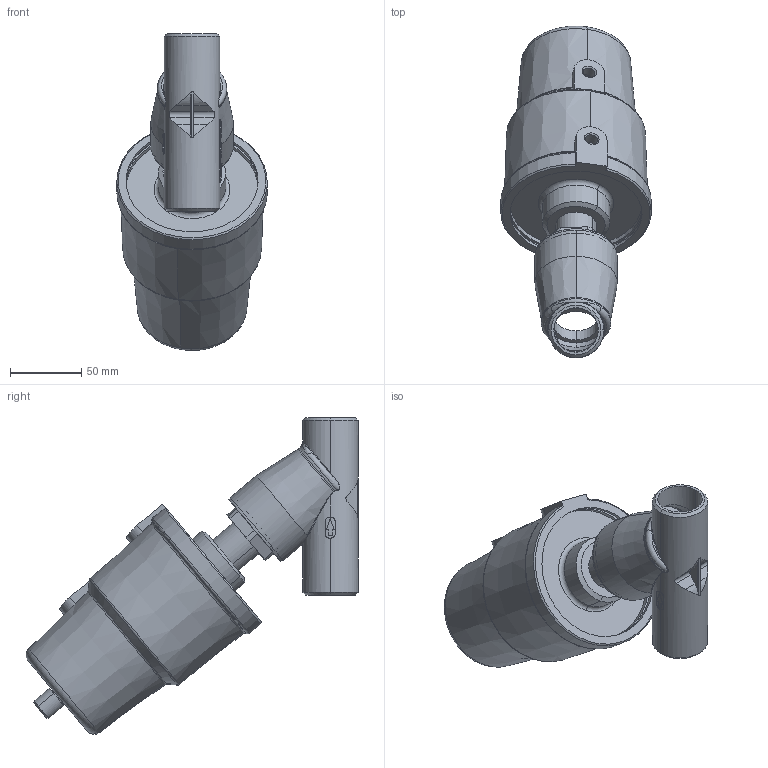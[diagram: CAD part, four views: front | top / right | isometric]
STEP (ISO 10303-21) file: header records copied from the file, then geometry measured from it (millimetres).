
FILE_DESCRIPTION (( 'STEP AP203' ), '1' );
FILE_NAME ('JF10090132WH.STEP', '2019-03-22T03:06:23', ( 'User' ), ( 'china' ), 'SwSTEP 2.0', 'SolidWorks 2017', '' );
FILE_SCHEMA (( 'CONFIG_CONTROL_DESIGN' ));
Length unit declared in the file: millimetre
Products named in the file (11): 9040002蟀諉; EJF633201H00概极; 90002傷裔; 90詰芠; 錨璃弝敦; JF10090132WH
Assembly tree (5 placements, depth 2):
  9040002蟀諉
  90002傷裔
  90詰芠
  錨璃弝敦
  JF10090132WH
    EJF633201H00概极
    9040002蟀諉
    90002傷裔
    90詰芠
    錨璃弝敦
Bounding box: 105.93 x 233.67 x 223.07 mm (x, y, z)
Volume: 427988.9 mm3; surface area: 176213.8 mm2
Topology: 5 solids, 5 shells, 615 faces, 1640 edges, 1052 vertices
Faces by surface type: bspline 256, cylinder 158, plane 115, cone 54, torus 32
Entity records: 43748 total; most frequent: CARTESIAN_POINT 29789, ORIENTED_EDGE 3266, DIRECTION 1828, EDGE_CURVE 1633, VERTEX_POINT 1052, B_SPLINE_CURVE_WITH_KNOTS 895, AXIS2_PLACEMENT_3D 755, EDGE_LOOP 657
